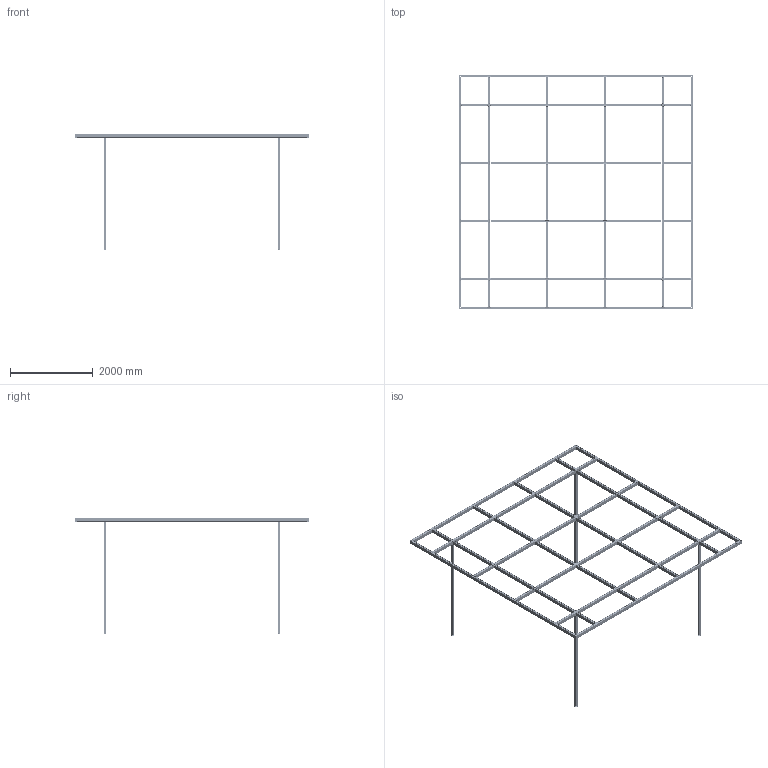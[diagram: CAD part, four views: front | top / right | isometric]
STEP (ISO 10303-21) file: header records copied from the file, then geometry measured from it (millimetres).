
FILE_DESCRIPTION (( 'STEP AP214' ), '1' );
FILE_NAME ('1001894.STEP', '2025-09-12T08:58:31', ( '' ), ( '' ), 'SwSTEP 2.0', 'SolidWorks 2025', '' );
FILE_SCHEMA (( 'AUTOMOTIVE_DESIGN' ));
Length unit declared in the file: millimetre
Products named in the file (1): 1001894
Bounding box: 5660 x 5660 x 2802 mm (x, y, z)
Volume: 170464125.7 mm3; surface area: 46651875 mm2
Topology: 240 solids, 240 shells, 16435 faces, 46567 edges, 30820 vertices
Faces by surface type: plane 10068, cylinder 5679, bspline 472, cone 200, torus 16
Entity records: 562128 total; most frequent: CARTESIAN_POINT 129069, ORIENTED_EDGE 93134, DIRECTION 86878, EDGE_CURVE 46567, LINE 33720, VECTOR 33720, VERTEX_POINT 30820, AXIS2_PLACEMENT_3D 26579
